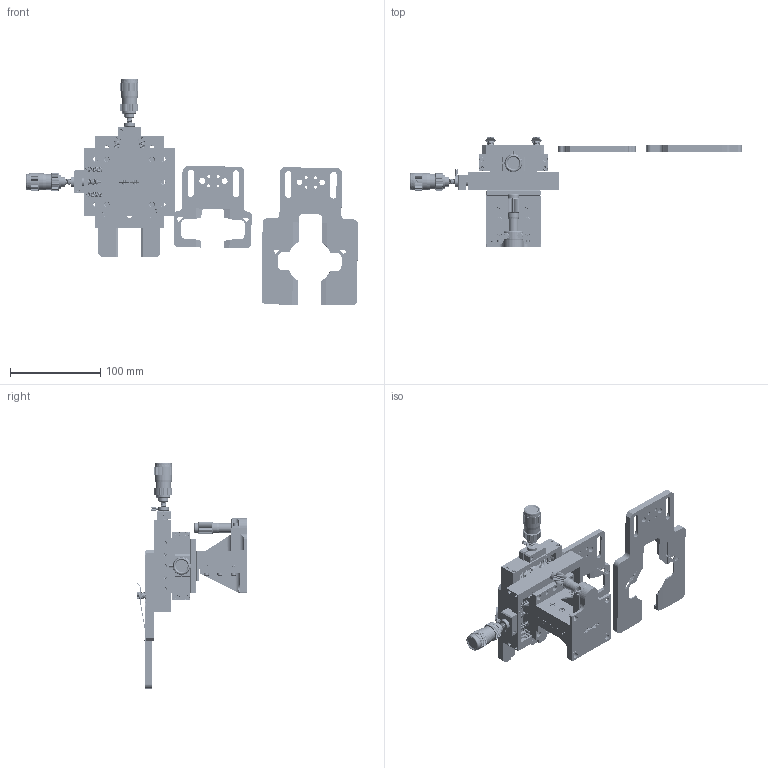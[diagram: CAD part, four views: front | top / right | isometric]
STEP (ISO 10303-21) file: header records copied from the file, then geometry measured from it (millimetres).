
FILE_DESCRIPTION((''),'2;1');
FILE_NAME('SLHA-XYZ-LEC_ASM','2026-07-08T13:59:59',('Administrator'),(''),'CREO PARAMETRIC BY PTC INC, 2025102','CREO PARAMETRIC BY PTC INC, 2025102','');
FILE_SCHEMA(('CONFIG_CONTROL_DESIGN'));
Products named in the file (117): VLT-Z-A2_3_1_1_2; VLT-Z-A3_3_1_1_2; VLT-Z-A4_3_1_1_2; VLT-Z-A5_3_1_1_2; VLT-Z-A6_3_1_1_2; VLT-Z-A7_3_1_1_2; VLT-Z-A9_3_1_1_2; VLT-Z-B1_3_1_1_2; VLT-Z-B2_3_1_1_2; VLT-Z-B3_3_1_1_2; VLT-Z-B4_3_1_1_2; VLT-Z-B5_3_1_1_2; VLT-Z-B6_3_1_1_2; VLT-Z-A8_ASM_7_ASM_1_1_2_ASM; VLT-Z-B7_3_1_1_2; VLT-Z-B8_22_1_1_2; VLT-Z-B9_3_1_1_2; SM13_A1_11_1_1_2; SM13_A2_3_1_1_2; SM13_A6_3_1_1_2; SM13_A3_3_1_1_2; SM13_A4_3_1_1_2; SM13_ASM_4_ASM_1_1_2_ASM; VLT-Z-C1_ASM_12_ASM_1_1_2_ASM; VLT-Z-C4_ASM_3_ASM_1_1_2_ASM; VLT-Z-C5_134_1_1_2; VLT-Z-C6_78_1_1_2; VLT-Z-C7_97_1_1_2; VLT-Z-A1_ASM_5_ASM_1_1_2_ASM; VLT-Z_ASM_50_ASM_1_1_2_ASM; VLT-Z_ASM_ASM_1_1_2_ASM; TSX-LE-C-A2_9_1; TSX-LE-C-A3_9_1; TSX-LE-C-A4_9_1; TSX-LE-C-A5_9_1; TSX-LE-C-A6_10_1; TSX-LE-C-A7_9_1; TSX-LE-C-A8_10_1; TSX-LE-C-A9_24_1; TSX-LE-C-B1_10_1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
Assembly tree (162 placements, depth 7):
  SLHA-XYZ-LEC_ASM
    VLT-Z_ASM_ASM_1_1_2_ASM
      VLT-Z_ASM_50_ASM_1_1_2_ASM
        VLT-Z-A1_ASM_5_ASM_1_1_2_ASM
          VLT-Z-A2_3_1_1_2  x6
          VLT-Z-A3_3_1_1_2  x2
          VLT-Z-A4_3_1_1_2  x2
          VLT-Z-A5_3_1_1_2  x6
          VLT-Z-A6_3_1_1_2  x2
          VLT-Z-A7_3_1_1_2  x3
          VLT-Z-A8_ASM_7_ASM_1_1_2_ASM
            VLT-Z-A9_3_1_1_2  x4
            VLT-Z-B1_3_1_1_2  x2
            VLT-Z-B2_3_1_1_2  x2
            VLT-Z-B3_3_1_1_2  x8
            VLT-Z-B4_3_1_1_2
            VLT-Z-B5_3_1_1_2
            VLT-Z-B6_3_1_1_2
          VLT-Z-B7_3_1_1_2  x4
          VLT-Z-B8_22_1_1_2
          VLT-Z-B9_3_1_1_2
          VLT-Z-C1_ASM_12_ASM_1_1_2_ASM
            SM13_ASM_4_ASM_1_1_2_ASM
              SM13_A1_11_1_1_2
              SM13_A2_3_1_1_2
              SM13_A6_3_1_1_2
              SM13_A3_3_1_1_2
              SM13_A4_3_1_1_2
          VLT-Z-C4_ASM_3_ASM_1_1_2_ASM
            VLT-Z-B1_3_1_1_2  x2
            VLT-Z-B3_3_1_1_2  x8
            VLT-Z-B4_3_1_1_2
            VLT-Z-B2_3_1_1_2  x2
            VLT-Z-A9_3_1_1_2  x2
          VLT-Z-C5_134_1_1_2
          VLT-Z-C6_78_1_1_2
          VLT-Z-C7_97_1_1_2
    TSX-LE-C-2_ASM_1_ASM  x2
      TSX-LE-C_ASM_146_ASM_1_ASM
        TSX-LE-C-A1_ASM_30_ASM_1_ASM
          TSX-LE-C-A2_9_1
          TSX-LE-C-A3_9_1
          TSX-LE-C-A4_9_1
          TSX-LE-C-A5_9_1
          TSX-LE-C-A6_10_1
          TSX-LE-C-A7_9_1
          TSX-LE-C-A8_10_1
          TSX-LE-C-A9_24_1
          TSX-LE-C-B1_10_1
        TSX-LE-C-B2_7_1
        TSX-LE-C-B3_7_1
        TSX-LE-C-B4_7_1
        TSX-LE-C-B5_7_1
        TSX-LE-C-B6_256_1
        TSX-LE-C-B7_7_1
        TSX-LE-C-B8_10_1
        TSX-LE-C-B9_7_1
        TSX-LE-C-C1_7_1
        TSX-LE-C-C2_7_1
        TSX-LE-C-C3_7_1
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Bounding box: 367.62 x 122.68 x 251.35 mm (x, y, z)
Volume: 488710.3 mm3; surface area: 279912.1 mm2
Topology: 210 solids, 216 shells, 10824 faces, 29127 edges, 18834 vertices
Faces by surface type: cylinder 4641, plane 2981, bspline 1795, cone 1110, sphere 122, extrusion 93, torus 82
Entity records: 630017 total; most frequent: CARTESIAN_POINT 469672, ORIENTED_EDGE 36559, DIRECTION 27324, EDGE_CURVE 18288, VERTEX_POINT 11906, AXIS2_PLACEMENT_3D 9779, VECTOR 7766, LINE 7706
